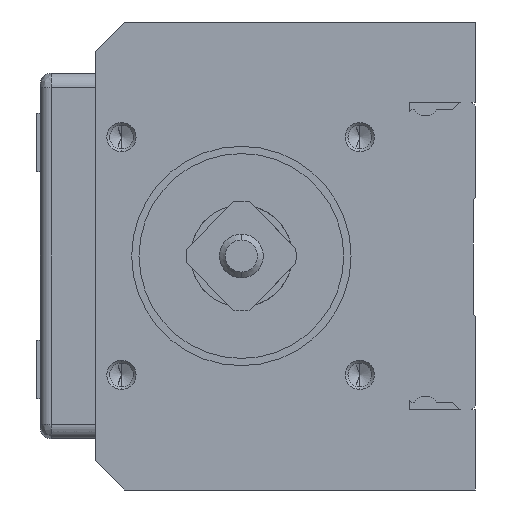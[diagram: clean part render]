
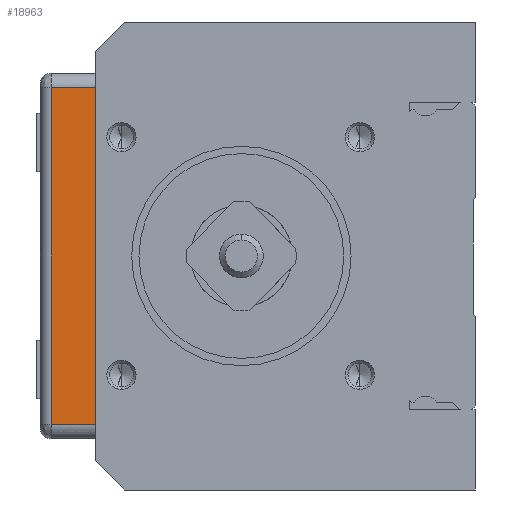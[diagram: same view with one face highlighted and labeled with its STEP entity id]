
A CAD part, left-side view. The second image highlights one B-rep face of the part: STEP entity #18963.
In plain terms, the highlighted planar face has unit normal (-1, 0, 0).
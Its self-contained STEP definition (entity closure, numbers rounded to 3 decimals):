
#627 = ORIENTED_EDGE ( 'NONE', *, *, #6645, .F. ) ;
#628 = ORIENTED_EDGE ( 'NONE', *, *, #6644, .F. ) ;
#629 = ORIENTED_EDGE ( 'NONE', *, *, #6643, .F. ) ;
#630 = ORIENTED_EDGE ( 'NONE', *, *, #6641, .T. ) ;
#6641 = EDGE_CURVE ( 'NONE', #7598, #7630, #8495, .T. ) ;
#6643 = EDGE_CURVE ( 'NONE', #7619, #7630, #8498, .T. ) ;
#6644 = EDGE_CURVE ( 'NONE', #7596, #7619, #8502, .T. ) ;
#6645 = EDGE_CURVE ( 'NONE', #7598, #7596, #8505, .T. ) ;
#6749 = CARTESIAN_POINT ( 'NONE',  ( 28., 58., 23. ) ) ;
#6765 = CARTESIAN_POINT ( 'NONE',  ( 28., 58., -23. ) ) ;
#6798 = CARTESIAN_POINT ( 'NONE',  ( 28., 50.5, 23. ) ) ;
#6805 = CARTESIAN_POINT ( 'NONE',  ( 28., 50.5, -23. ) ) ;
#6972 = DIRECTION ( 'NONE',  ( 0., 0., -1. ) ) ;
#6978 = CARTESIAN_POINT ( 'NONE',  ( 28., 50.5, 23. ) ) ;
#6989 = DIRECTION ( 'NONE',  ( 0., 1., 0. ) ) ;
#6995 = CARTESIAN_POINT ( 'NONE',  ( 28., 54.25, -23. ) ) ;
#7005 = DIRECTION ( 'NONE',  ( 0., 0., 1. ) ) ;
#7009 = CARTESIAN_POINT ( 'NONE',  ( 28., 58., 23. ) ) ;
#7027 = DIRECTION ( 'NONE',  ( 0., 1., 0. ) ) ;
#7030 = CARTESIAN_POINT ( 'NONE',  ( 28., 58., 23. ) ) ;
#7596 = VERTEX_POINT ( 'NONE', #6805 ) ;
#7598 = VERTEX_POINT ( 'NONE', #6798 ) ;
#7619 = VERTEX_POINT ( 'NONE', #6765 ) ;
#7630 = VERTEX_POINT ( 'NONE', #6749 ) ;
#8495 = LINE ( 'NONE', #7030, #8496 ) ;
#8496 = VECTOR ( 'NONE', #7027, 1000. ) ;
#8498 = LINE ( 'NONE', #7009, #8501 ) ;
#8501 = VECTOR ( 'NONE', #7005, 1000. ) ;
#8502 = LINE ( 'NONE', #6995, #8503 ) ;
#8503 = VECTOR ( 'NONE', #6989, 1000. ) ;
#8505 = LINE ( 'NONE', #6978, #8506 ) ;
#8506 = VECTOR ( 'NONE', #6972, 1000. ) ;
#11584 = AXIS2_PLACEMENT_3D ( 'NONE', #12532, #12533, #12534 ) ;
#12531 = PLANE ( 'NONE',  #11584 ) ;
#12532 = CARTESIAN_POINT ( 'NONE',  ( 28., 58., 23. ) ) ;
#12533 = DIRECTION ( 'NONE',  ( -1., 0., 0. ) ) ;
#12534 = DIRECTION ( 'NONE',  ( 0., 0., 1. ) ) ;
#14275 = FACE_OUTER_BOUND ( 'NONE', #19445, .T. ) ;
#18963 = ADVANCED_FACE ( 'NONE', ( #14275 ), #12531, .T. ) ;
#19445 = EDGE_LOOP ( 'NONE', ( #630, #629, #628, #627 ) ) ;
